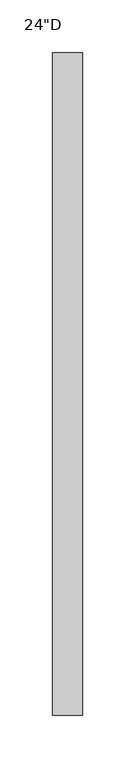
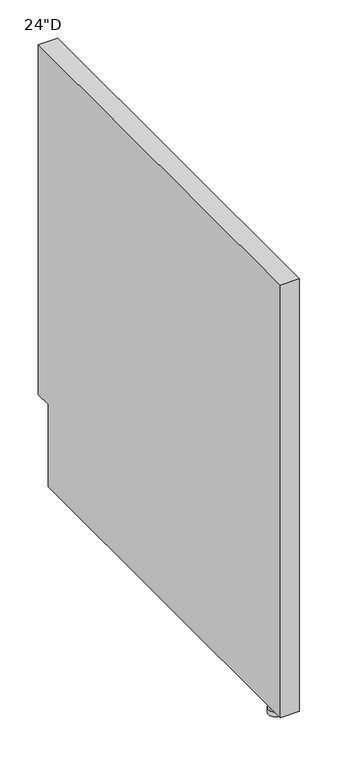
"""IFC4 building model written with IfcOpenShell, lengths in millimetres: furniture geometry."""

import ifcopenshell
import ifcopenshell.guid

model = None  # the IFC model being written
_history = None  # IfcOwnerHistory: only IFC2X3 demands one
_inside = {}  # id of a spatial element -> (the spatial element, [elements in it])
_under = {}  # id of a project, library or spatial element -> (it, [spatial elements below it])
_declared = {}  # id of a project -> (the project, [libraries it declares])
_typed = {}  # id of a type object -> (the type object, [elements of that type])
_made_of = {}  # id of a material, layer set ... -> (it, [elements and type objects made of it])


def new_model(schema):
    """Start an empty IFC model of exactly this schema.

    Asked for "IFC4X3", IfcOpenShell would pick the latest addendum, in which some entities
    have other attributes; the version numbers below select the first issue.
    IFC2X3 requires an IfcOwnerHistory on every rooted entity: one is made here for all.
    """
    global model, _history
    if schema == "IFC4X3":
        model = ifcopenshell.file(schema_version=(4, 3, 0, 0))
    else:
        model = ifcopenshell.file(schema=schema)
    _inside.clear()
    _under.clear()
    _declared.clear()
    _typed.clear()
    _made_of.clear()
    _history = None
    if model.schema == "IFC2X3":
        org = make("IfcOrganization", Name="unknown")
        user = make(
            "IfcPersonAndOrganization",
            ThePerson=make("IfcPerson", FamilyName="unknown"),
            TheOrganization=org,
        )
        app = make(
            "IfcApplication",
            ApplicationDeveloper=org,
            Version="unknown",
            ApplicationFullName="unknown",
            ApplicationIdentifier="unknown",
        )
        _history = make(
            "IfcOwnerHistory",
            OwningUser=user,
            OwningApplication=app,
            ChangeAction="ADDED",
            CreationDate=0,
        )
    return model


def make(cls, **values):
    """One entity of the class cls with the attributes given. An attribute that is None is left unset."""
    return model.create_entity(
        cls, **{name: value for name, value in values.items() if value is not None}
    )


def rooted(cls, **values):
    """An entity with a GlobalId (a new one), such as an element, a storey or a relation."""
    return make(cls, GlobalId=ifcopenshell.guid.new(), OwnerHistory=_history, **values)


def si_unit(unit_type, name, prefix=None):
    """IfcSIUnit, for example si_unit("LENGTHUNIT", "METRE", prefix="MILLI")."""
    return make("IfcSIUnit", UnitType=unit_type, Prefix=prefix, Name=name)


def assignment(units):
    """IfcUnitAssignment: the units of a project."""
    return None if units is None else make("IfcUnitAssignment", Units=units)


def point(xyz):
    """IfcCartesianPoint."""
    return None if xyz is None else make("IfcCartesianPoint", Coordinates=xyz)


def direction(xyz):
    """IfcDirection."""
    return None if xyz is None else make("IfcDirection", DirectionRatios=xyz)


def frame(location, z_axis=None, x_axis=None):
    """IfcAxis2Placement3D, a coordinate frame: its origin and axes. An axis left out is left unset."""
    return make(
        "IfcAxis2Placement3D",
        Location=point(location),
        Axis=direction(z_axis),
        RefDirection=direction(x_axis),
    )


def origin():
    """The frame at (0, 0, 0) with its axes left unset."""
    return frame((0.0, 0.0, 0.0))


def place(relative_to, where):
    """IfcLocalPlacement: puts the frame where relative to a parent placement (None: the world)."""
    return make(
        "IfcLocalPlacement", PlacementRelTo=relative_to, RelativePlacement=where
    )


def context(
    kind, dimensions, precision=None, world=None, true_north=None, identifier=None
):
    """IfcGeometricRepresentationContext, for example the 3D "Model" context."""
    return make(
        "IfcGeometricRepresentationContext",
        ContextIdentifier=identifier,
        ContextType=kind,
        CoordinateSpaceDimension=dimensions,
        Precision=precision,
        WorldCoordinateSystem=world,
        TrueNorth=true_north,
    )


def project(units=None, contexts=None):
    """IfcProject with its units and contexts."""
    return rooted(
        "IfcProject",
        Name="project",
        RepresentationContexts=contexts,
        UnitsInContext=assignment(units),
    )


def spatial(cls, under=None, at=None, **own):
    """A site, building, storey or space (cls), placed at a placement, below another one or the project."""
    s = rooted(cls, ObjectPlacement=at, **own)
    if under is not None:
        _under.setdefault(under.id(), (under, []))[1].append(s)
    return s


def polyline(points):
    """IfcPolyline through the points."""
    return make("IfcPolyline", Points=[point(p) for p in points])


def circle_curve(where, radius):
    """IfcCircle in the frame where."""
    return make("IfcCircle", Position=where, Radius=radius)


def outline(outer, holes=None, kind="AREA"):
    """IfcArbitraryClosedProfileDef: a profile drawn as a closed curve; with holes, ...WithVoids."""
    if holes is None:
        return make("IfcArbitraryClosedProfileDef", ProfileType=kind, OuterCurve=outer)
    return make(
        "IfcArbitraryProfileDefWithVoids",
        ProfileType=kind,
        OuterCurve=outer,
        InnerCurves=holes,
    )


def extrude(swept, where, along, depth):
    """IfcExtrudedAreaSolid: the profile swept, set in the frame where, extruded along a direction by depth."""
    return make(
        "IfcExtrudedAreaSolid",
        SweptArea=swept,
        Position=where,
        ExtrudedDirection=direction(along),
        Depth=depth,
    )


def shape(context_of_items, identifier, shape_type, items):
    """IfcShapeRepresentation: the items that make up one representation, for example the "Body"."""
    return make(
        "IfcShapeRepresentation",
        ContextOfItems=context_of_items,
        RepresentationIdentifier=identifier,
        RepresentationType=shape_type,
        Items=items,
    )


def source(mapping_origin, context_of_items, identifier, shape_type, items):
    """IfcRepresentationMap: a shape defined once, which mapped items show again and again."""
    return make(
        "IfcRepresentationMap",
        MappingOrigin=mapping_origin,
        MappedRepresentation=shape(context_of_items, identifier, shape_type, items),
    )


def transform(
    local_origin,
    x_axis=None,
    y_axis=None,
    z_axis=None,
    scale=None,
    scale2=None,
    scale3=None,
    uniform=True,
):
    """IfcCartesianTransformationOperator3D, or its non-uniform kind. x_axis, y_axis, z_axis: its Axis1, 2, 3."""
    if uniform:
        return make(
            "IfcCartesianTransformationOperator3D",
            Axis1=direction(x_axis),
            Axis2=direction(y_axis),
            LocalOrigin=point(local_origin),
            Scale=scale,
            Axis3=direction(z_axis),
        )
    return make(
        "IfcCartesianTransformationOperator3DnonUniform",
        Axis1=direction(x_axis),
        Axis2=direction(y_axis),
        LocalOrigin=point(local_origin),
        Scale=scale,
        Axis3=direction(z_axis),
        Scale2=scale2,
        Scale3=scale3,
    )


def mapped(mapping_source, mapping_target):
    """IfcMappedItem: shows the shape of a source again, moved by a transform."""
    return make(
        "IfcMappedItem", MappingSource=mapping_source, MappingTarget=mapping_target
    )


def made_of(thing, what):
    """Note that an element or type object is made of a material, layer set ...; save() writes the relation."""
    if what is not None:
        _made_of.setdefault(what.id(), (what, []))[1].append(thing)
    return thing


def element(
    cls,
    number,
    at=None,
    inside=None,
    cuts=None,
    type_object=None,
    material=None,
    context=None,
    identifier="Body",
    shape_type=None,
    held_by="IfcProductDefinitionShape",
    body=None,
    shapes=None,
    **own,
):
    """One element of the class cls, such as IfcWall. Its Tag is "e" and its number.

    at: its placement. inside: the storey or other place that contains it. cuts: it is an
    opening in that element (IfcRelVoidsElement). A single representation is given by context,
    identifier, shape_type and body (its items); several are given by shapes. held_by: the class
    of the entity that holds the representations. save() writes the other relations.
    """
    e = rooted(cls, Tag="e%d" % number, ObjectPlacement=at, **own)
    if body is not None:
        shapes = [shape(context, identifier, shape_type, body)]
    if shapes is not None:
        e.Representation = make(held_by, Representations=shapes)
    if inside is not None:
        _inside.setdefault(inside.id(), (inside, []))[1].append(e)
    if cuts is not None:
        rooted(
            "IfcRelVoidsElement", RelatingBuildingElement=cuts, RelatedOpeningElement=e
        )
    if type_object is not None:
        _typed.setdefault(type_object.id(), (type_object, []))[1].append(e)
    return made_of(e, material)


def aggregate(whole, parts):
    """IfcRelAggregates: a whole, such as a stair, and the parts it consists of."""
    return rooted("IfcRelAggregates", RelatingObject=whole, RelatedObjects=parts)


def save(model, path):
    """Write the relations noted so far, then the file.

    IfcRelAggregates (storeys below a building ...), IfcRelContainedInSpatialStructure (elements
    in a storey), IfcRelDefinesByType, IfcRelAssociatesMaterial and IfcRelDeclares: one each for
    every whole, place, type object, material and project.
    """
    for whole, parts in _under.values():
        aggregate(whole, parts)
    for where, things in _inside.values():
        rooted(
            "IfcRelContainedInSpatialStructure",
            RelatedElements=things,
            RelatingStructure=where,
        )
    for kind, things in _typed.values():
        rooted("IfcRelDefinesByType", RelatedObjects=things, RelatingType=kind)
    for what, things in _made_of.values():
        rooted("IfcRelAssociatesMaterial", RelatedObjects=things, RelatingMaterial=what)
    for by, libraries in _declared.values():
        rooted("IfcRelDeclares", RelatingContext=by, RelatedDefinitions=libraries)
    model.write(path)


def plane_surface(at):
    """IfcPlane: the flat surface through the origin of the frame at, square to its z axis."""
    return make("IfcPlane", Position=at)


def cylinder_surface(at, radius):
    """IfcCylindricalSurface: all points at the distance radius from the z axis of the frame at."""
    return make("IfcCylindricalSurface", Position=at, Radius=radius)


def advanced_brep(points, edges, surfaces, faces):
    """IfcAdvancedBrep: a solid bounded by faces that lie on surfaces and meet in shared edges.

    An edge is (start, end): straight between two places in points (the first is 0);
    or (start, end, curve); or (start, end, curve, False) where it runs against its curve.
    A face is (place in surfaces, loops), or (place, loops, False) where it looks against
    its surface's normal. A loop lists edges by number (the first is 1), with a minus sign
    where the edge is run from its end to its start. The first loop is the outer one.
    """
    corners = [point(p) for p in points]
    vertices = [make("IfcVertexPoint", VertexGeometry=c) for c in corners]
    made = []
    for start, end, *more in edges:
        made.append(
            make(
                "IfcEdgeCurve",
                EdgeStart=vertices[start],
                EdgeEnd=vertices[end],
                EdgeGeometry=more[0] if more else make("IfcPolyline", Points=[corners[start], corners[end]]),
                SameSense=more[1] if len(more) > 1 else True,
            )
        )
    hull = []
    for where, loops, *sense in faces:
        bounds = []
        for j, loop in enumerate(loops):
            ring = [make("IfcOrientedEdge", EdgeElement=made[abs(k) - 1], Orientation=k > 0) for k in loop]
            bounds.append(
                make(
                    "IfcFaceOuterBound" if j == 0 else "IfcFaceBound",
                    Bound=make("IfcEdgeLoop", EdgeList=ring),
                    Orientation=True,
                )
            )
        hull.append(make("IfcAdvancedFace", Bounds=bounds, FaceSurface=surfaces[where], SameSense=sense[0] if sense else True))
    return make("IfcAdvancedBrep", Outer=make("IfcClosedShell", CfsFaces=hull))


def furniture_b7c7402d(model_context):
    return source(origin(), model_context, "Body", "SolidModel", [
        advanced_brep(
        [(14.2875, 37.5793, 0.0), (14.2875, 26.64714, 0.0), (14.2875, 48.51146, 0.0), (14.2875, 44.82592, 19.05), (14.2875, 30.33268, 19.05), (14.2875, 37.5793, 19.05), (14.2875, 44.82592, 7.60222), (14.2875, 30.33268, 7.60222), (14.2875, 48.51146, 7.60222), (14.2875, 26.64714, 7.60222)],
        [
            (0, 1),
            (1, 2, circle_curve(frame((14.2875, 37.5793, 0.0), z_axis=(0.0, 0.0, -1.0), x_axis=(0.0, -1.0, 0.0)), 10.93216)),
            (2, 0),
            (2, 1, circle_curve(frame((14.2875, 37.5793, 0.0), z_axis=(0.0, 0.0, -1.0), x_axis=(0.0, -1.0, 0.0)), 10.93216)),
            (3, 4, circle_curve(frame((14.2875, 37.5793, 19.05), z_axis=(0.0, 0.0, 1.0), x_axis=(0.0, -1.0, 0.0)), 7.24662)),
            (4, 5),
            (5, 3),
            (4, 3, circle_curve(frame((14.2875, 37.5793, 19.05), z_axis=(0.0, 0.0, 1.0), x_axis=(0.0, -1.0, 0.0)), 7.24662)),
            (6, 7, circle_curve(frame((14.2875, 37.5793, 7.60222), z_axis=(0.0, 0.0, 1.0), x_axis=(0.0, -1.0, 0.0)), 7.24662)),
            (7, 4),
            (3, 6),
            (7, 6, circle_curve(frame((14.2875, 37.5793, 7.60222), z_axis=(0.0, 0.0, 1.0), x_axis=(0.0, -1.0, 0.0)), 7.24662)),
            (8, 9, circle_curve(frame((14.2875, 37.5793, 7.60222), z_axis=(0.0, 0.0, 1.0), x_axis=(0.0, -1.0, 0.0)), 10.93216)),
            (9, 7),
            (6, 8),
            (9, 8, circle_curve(frame((14.2875, 37.5793, 7.60222), z_axis=(0.0, 0.0, 1.0), x_axis=(0.0, -1.0, 0.0)), 10.93216)),
            (1, 9),
            (8, 2),
        ],
        [
            plane_surface(frame((14.2875, 37.5793, 0.0), z_axis=(0.0, 0.0, -1.0), x_axis=(0.0, -1.0, 0.0))),
            plane_surface(frame((14.2875, 37.5793, 19.05), z_axis=(0.0, 0.0, 1.0), x_axis=(0.0, -1.0, 0.0))),
            cylinder_surface(frame((14.2875, 37.5793, 0.0), z_axis=(0.0, 0.0, -1.0), x_axis=(0.0, -1.0, 0.0)), 7.24662),
            plane_surface(frame((14.2875, 37.5793, 7.60222), z_axis=(0.0, 0.0, 1.0), x_axis=(0.0, -1.0, 0.0))),
            cylinder_surface(frame((14.2875, 37.5793, 0.0), z_axis=(0.0, 0.0, -1.0), x_axis=(0.0, -1.0, 0.0)), 10.93216),
        ],
        [
            (0, [[1, 2, 3]]),
            (0, [[-3, 4, -1]]),
            (1, [[5, 6, 7]]),
            (1, [[8, -7, -6]]),
            (2, [[9, 10, -5, 11]]),
            (2, [[12, -11, -8, -10]]),
            (3, [[13, 14, -9, 15]]),
            (3, [[16, -15, -12, -14]]),
            (4, [[-2, 17, -13, 18]]),
            (4, [[-4, -18, -16, -17]]),
        ],
    ),
        extrude(outline(polyline([(0.0, 704.85), (628.65, 704.85), (628.65, 150.01875), (603.25, 150.01875), (603.25, 19.05), (0.0, 19.05), (0.0, 704.85)])), frame((0.0, 0.0, 0.0), z_axis=(1.0, 0.0, 0.0), x_axis=(0.0, 1.0, 0.0)), (0.0, 0.0, 1.0), 28.575),
    ])


if __name__ == "__main__":
    model = new_model("IFC4")
    model_context = context("Model", 3, world=origin())
    ifc_project = project(units=[si_unit("LENGTHUNIT", "METRE", prefix="MILLI")], contexts=[model_context])
    site = spatial("IfcSite", under=ifc_project)
    building = spatial("IfcBuilding", under=site)
    placement = place(None, origin())
    furniture_shape = furniture_b7c7402d(model_context)
    element("IfcFurniture", 1, ObjectType="HermanMiller_ActionOffice_A2380_WorkSuraceSupportPanelEnd : 24\"D", at=placement, inside=building, context=model_context, shape_type="MappedRepresentation", body=[
        mapped(furniture_shape, transform((0.0, 0.0, 0.0), x_axis=(1.0, 0.0, 0.0), y_axis=(0.0, 1.0, 0.0), z_axis=(0.0, 0.0, 1.0))),
    ])
    save(model, "model.ifc")
